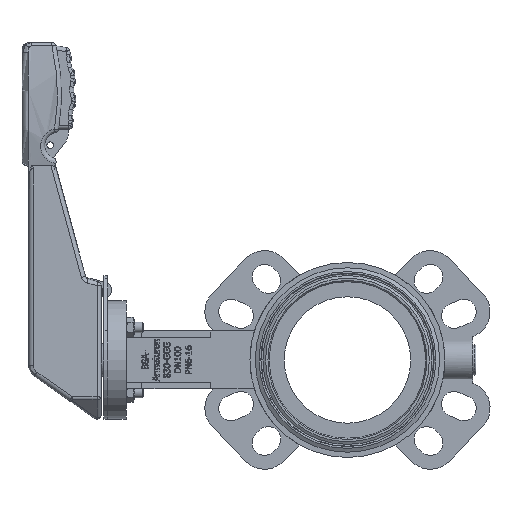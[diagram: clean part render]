
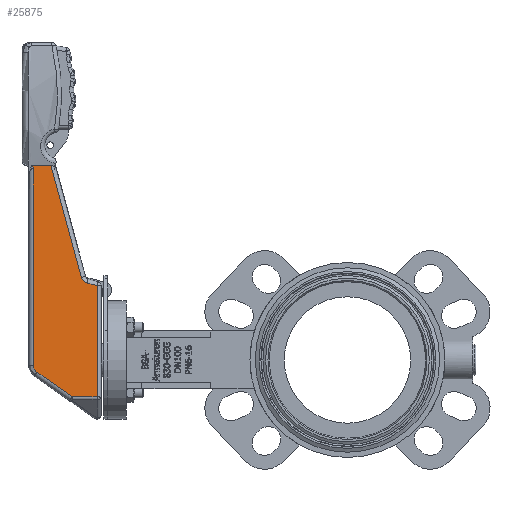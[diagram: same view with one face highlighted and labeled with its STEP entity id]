
A CAD part, left-side view. The second image highlights one B-rep face of the part: STEP entity #25875.
In plain terms, the highlighted planar face has unit normal (-1, 0, 0.032).
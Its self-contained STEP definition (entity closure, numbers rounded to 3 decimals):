
#23759=CARTESIAN_POINT('',(-20.6,208.665,-28.084));
#23760=VERTEX_POINT('',#23759);
#23794=CARTESIAN_POINT('',(-20.6,190.,-28.084));
#23795=VERTEX_POINT('',#23794);
#23803=CARTESIAN_POINT('',(-20.6,190.,-28.084));
#23804=DIRECTION('',(0.0,1.0,0.0));
#23805=VECTOR('',#23804,18.665);
#23806=LINE('',#23803,#23805);
#23807=EDGE_CURVE('',#23795,#23760,#23806,.T.);
#23877=CARTESIAN_POINT('',(-19.998,235.671,-9.174));
#23878=VERTEX_POINT('',#23877);
#23886=CARTESIAN_POINT('',(-19.831,238.4,-3.931));
#23887=VERTEX_POINT('',#23886);
#23888=CARTESIAN_POINT('',(-19.831,232.,-3.931));
#23889=DIRECTION('',(0.999,0.,-0.032));
#23890=DIRECTION('',(-0.032,0.,-0.999));
#23891=AXIS2_PLACEMENT_3D('',#23888,#23889,#23890);
#23892=ELLIPSE('',#23891,6.403,6.4);
#23893=EDGE_CURVE('',#23878,#23887,#23892,.T.);
#23911=CARTESIAN_POINT('',(-20.6,208.665,-28.084));
#23912=DIRECTION('',(0.018,0.819,0.573));
#23913=VECTOR('',#23912,32.974);
#23914=LINE('',#23911,#23913);
#23915=EDGE_CURVE('',#23760,#23878,#23914,.T.);
#23947=CARTESIAN_POINT('',(-15.089,238.4,144.947));
#23948=VERTEX_POINT('',#23947);
#23949=CARTESIAN_POINT('',(-19.831,238.4,-3.931));
#23950=DIRECTION('',(0.032,0.0,0.999));
#23951=VECTOR('',#23950,148.954);
#23952=LINE('',#23949,#23951);
#23953=EDGE_CURVE('',#23887,#23948,#23952,.T.);
#24357=CARTESIAN_POINT('',(-15.,239.024,147.748));
#24358=VERTEX_POINT('',#24357);
#24375=CARTESIAN_POINT('',(-15.089,238.4,144.947));
#24376=CARTESIAN_POINT('',(-15.059,238.4,145.91));
#24377=CARTESIAN_POINT('',(-15.028,238.613,146.87));
#24378=CARTESIAN_POINT('',(-15.,239.024,147.748));
#24379=B_SPLINE_CURVE_WITH_KNOTS('',3,(#24375,#24376,#24377,#24378),.UNSPECIFIED.,.F.,.U.,(4,4),(-0.922,-0.634),.UNSPECIFIED.);
#24380=EDGE_CURVE('',#23948,#24358,#24379,.T.);
#24636=CARTESIAN_POINT('',(-17.709,201.939,62.693));
#24637=VERTEX_POINT('',#24636);
#24645=CARTESIAN_POINT('',(-17.843,197.702,58.476));
#24646=VERTEX_POINT('',#24645);
#24647=CARTESIAN_POINT('',(-17.659,196.149,64.269));
#24648=DIRECTION('',(-0.999,0.,0.032));
#24649=DIRECTION('',(-0.023,0.706,-0.708));
#24650=AXIS2_PLACEMENT_3D('',#24647,#24648,#24649);
#24651=CIRCLE('',#24650,6.);
#24652=EDGE_CURVE('',#24637,#24646,#24651,.T.);
#24669=CARTESIAN_POINT('',(-15.,225.109,147.748));
#24670=VERTEX_POINT('',#24669);
#24686=CARTESIAN_POINT('',(-15.,225.109,147.748));
#24687=DIRECTION('',(-0.031,-0.263,-0.964));
#24688=VECTOR('',#24687,88.197);
#24689=LINE('',#24686,#24688);
#24690=EDGE_CURVE('',#24670,#24637,#24689,.T.);
#24817=CARTESIAN_POINT('',(-17.909,190.,56.413));
#24818=VERTEX_POINT('',#24817);
#24902=CARTESIAN_POINT('',(-17.843,197.702,58.476));
#24903=DIRECTION('',(-0.008,-0.966,-0.259));
#24904=VECTOR('',#24903,7.974);
#24905=LINE('',#24902,#24904);
#24906=EDGE_CURVE('',#24646,#24818,#24905,.T.);
#24921=CARTESIAN_POINT('',(-17.909,190.,56.413));
#24922=DIRECTION('',(-0.032,0.0,-0.999));
#24923=VECTOR('',#24922,84.54);
#24924=LINE('',#24921,#24923);
#24925=EDGE_CURVE('',#24818,#23795,#24924,.T.);
#25790=CARTESIAN_POINT('',(-15.,239.024,147.748));
#25791=DIRECTION('',(0.0,-1.0,0.0));
#25792=VECTOR('',#25791,13.915);
#25793=LINE('',#25790,#25792);
#25794=EDGE_CURVE('',#24358,#24670,#25793,.T.);
#25858=CARTESIAN_POINT('',(-20.,247.,-9.252));
#25859=DIRECTION('',(-0.999,0.,0.032));
#25860=DIRECTION('',(0.0,-1.0,0.0));
#25861=AXIS2_PLACEMENT_3D('',#25858,#25859,#25860);
#25862=PLANE('',#25861);
#25863=ORIENTED_EDGE('',*,*,#23807,.F.);
#25864=ORIENTED_EDGE('',*,*,#24925,.F.);
#25865=ORIENTED_EDGE('',*,*,#24906,.F.);
#25866=ORIENTED_EDGE('',*,*,#24652,.F.);
#25867=ORIENTED_EDGE('',*,*,#24690,.F.);
#25868=ORIENTED_EDGE('',*,*,#25794,.F.);
#25869=ORIENTED_EDGE('',*,*,#24380,.F.);
#25870=ORIENTED_EDGE('',*,*,#23953,.F.);
#25871=ORIENTED_EDGE('',*,*,#23893,.F.);
#25872=ORIENTED_EDGE('',*,*,#23915,.F.);
#25873=EDGE_LOOP('',(#25863,#25864,#25865,#25866,#25867,#25868,#25869,#25870,#25871,#25872));
#25874=FACE_OUTER_BOUND('',#25873,.T.);
#25875=ADVANCED_FACE('',(#25874),#25862,.T.);
